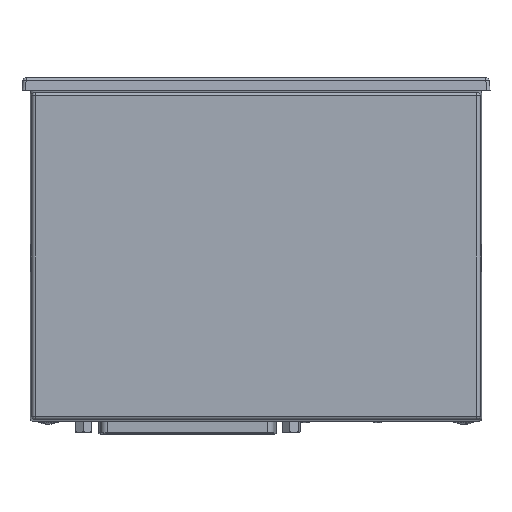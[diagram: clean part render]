
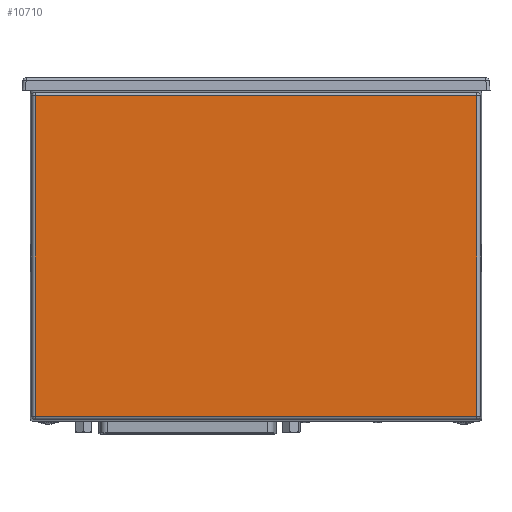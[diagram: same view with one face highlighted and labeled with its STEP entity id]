
A CAD part, front view. The second image highlights one B-rep face of the part: STEP entity #10710.
In plain terms, the highlighted planar face has unit normal (0, -1, 0).
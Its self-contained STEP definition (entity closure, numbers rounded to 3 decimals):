
#527 = DIRECTION ( 'NONE',  ( 1., 0., 0. ) ) ;
#1054 = LINE ( 'NONE', #37507, #25556 ) ;
#1798 = VERTEX_POINT ( 'NONE', #39203 ) ;
#4589 = PLANE ( 'NONE',  #34810 ) ;
#5669 = VERTEX_POINT ( 'NONE', #48634 ) ;
#6076 = EDGE_LOOP ( 'NONE', ( #50808, #51540, #41970, #36010 ) ) ;
#6808 = LINE ( 'NONE', #10625, #7677 ) ;
#7336 = VERTEX_POINT ( 'NONE', #44268 ) ;
#7677 = VECTOR ( 'NONE', #32096, 1000. ) ;
#10625 = CARTESIAN_POINT ( 'NONE',  ( -67.471, -21.5, -100.388 ) ) ;
#10710 = ADVANCED_FACE ( 'NONE', ( #21180 ), #4589, .T. ) ;
#12217 = VECTOR ( 'NONE', #527, 1000. ) ;
#14657 = CARTESIAN_POINT ( 'NONE',  ( -67.471, -21.5, -1.529 ) ) ;
#16013 = EDGE_CURVE ( 'NONE', #5669, #1798, #19585, .T. ) ;
#19585 = LINE ( 'NONE', #44853, #34452 ) ;
#21180 = FACE_OUTER_BOUND ( 'NONE', #6076, .T. ) ;
#25556 = VECTOR ( 'NONE', #33979, 1000. ) ;
#32096 = DIRECTION ( 'NONE',  ( 0., 0., -1. ) ) ;
#32376 = DIRECTION ( 'NONE',  ( 0., 0., 1. ) ) ;
#33717 = LINE ( 'NONE', #34512, #12217 ) ;
#33975 = DIRECTION ( 'NONE',  ( 0., -1., 0. ) ) ;
#33979 = DIRECTION ( 'NONE',  ( -1., 0., 0. ) ) ;
#34452 = VECTOR ( 'NONE', #32376, 1000. ) ;
#34512 = CARTESIAN_POINT ( 'NONE',  ( 68.388, -21.5, -99.471 ) ) ;
#34810 = AXIS2_PLACEMENT_3D ( 'NONE', #37767, #33975, #49996 ) ;
#36010 = ORIENTED_EDGE ( 'NONE', *, *, #45906, .T. ) ;
#37507 = CARTESIAN_POINT ( 'NONE',  ( -68.388, -21.5, -1.529 ) ) ;
#37767 = CARTESIAN_POINT ( 'NONE',  ( 0., -21.5, 0. ) ) ;
#39203 = CARTESIAN_POINT ( 'NONE',  ( 67.471, -21.5, -1.529 ) ) ;
#41970 = ORIENTED_EDGE ( 'NONE', *, *, #42103, .T. ) ;
#42103 = EDGE_CURVE ( 'NONE', #50377, #7336, #6808, .T. ) ;
#44268 = CARTESIAN_POINT ( 'NONE',  ( -67.471, -21.5, -99.471 ) ) ;
#44853 = CARTESIAN_POINT ( 'NONE',  ( 67.471, -21.5, -0.612 ) ) ;
#45906 = EDGE_CURVE ( 'NONE', #7336, #5669, #33717, .T. ) ;
#48634 = CARTESIAN_POINT ( 'NONE',  ( 67.471, -21.5, -99.471 ) ) ;
#49996 = DIRECTION ( 'NONE',  ( 0., 0., -1. ) ) ;
#50231 = EDGE_CURVE ( 'NONE', #1798, #50377, #1054, .T. ) ;
#50377 = VERTEX_POINT ( 'NONE', #14657 ) ;
#50808 = ORIENTED_EDGE ( 'NONE', *, *, #16013, .T. ) ;
#51540 = ORIENTED_EDGE ( 'NONE', *, *, #50231, .T. ) ;
